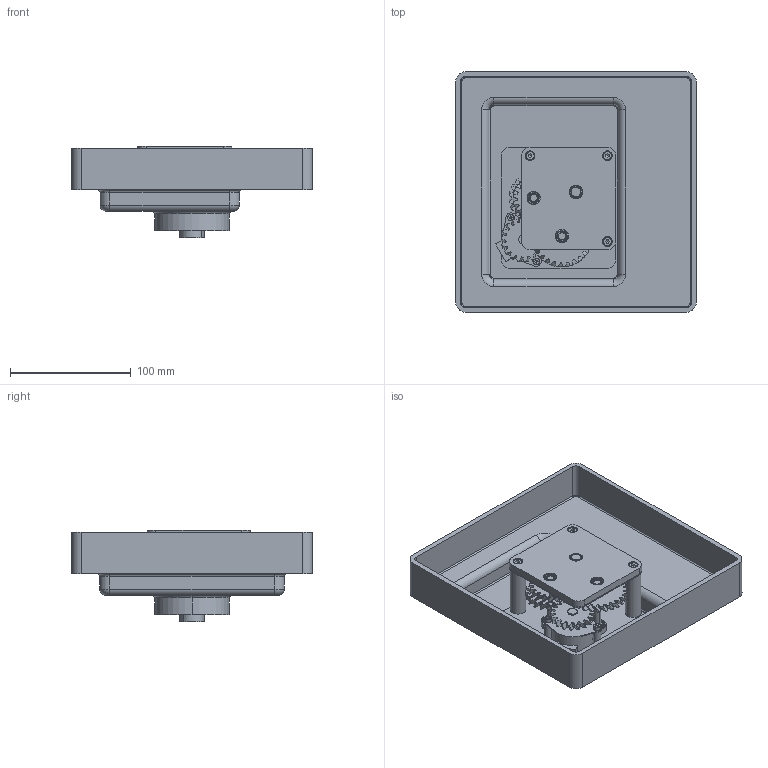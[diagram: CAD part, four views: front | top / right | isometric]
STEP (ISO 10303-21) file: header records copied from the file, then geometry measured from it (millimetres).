
FILE_DESCRIPTION (( 'STEP AP214' ), '1' );
FILE_NAME ('GearUnit.STEP', '2019-11-18T20:47:11', ( '' ), ( '' ), 'SwSTEP 2.0', 'SolidWorks 2018', '' );
FILE_SCHEMA (( 'AUTOMOTIVE_DESIGN' ));
Length unit declared in the file: millimetre
Products named in the file (50): 11Shaft; angular contact ball bearing_68_iso_ISO 15 ABB - 286 - 10,DE,NC,10_68; socket head cap screw_iso_ISO 4762 M2.5 x 6 - 6N; 6GearKey; Shaft7; radial ball bearing_68_iso_ISO 15 RBB - 286 - 10,DE,NC,10_68; 8-9Shaft; helical gear_4_iso_ISO - LH Helical gear 1M 21T 25HA 20PA 7FW ---21A75H50L10.0S1; helical gear_4_iso_ISO - RH Helical gear 1.5M 16T 35HA 20PA 5FW ---16A75H50L6.0S1; 7Shaft; ArmGears; 2GearKey; socket head cap screw_iso_ISO 4762 M2 x 3 - 3N; helical gear_4_iso_ISO - LH Helical gear 1M 21T 25HA 20PA 5FW ---21A75H50L6.0S1; Shaft11; GearUnit; 3-4Shaft; 11GearKey; Shaft11Cover; ElectricMotor; 9GearKey; BearingsBoxCover; 5Shaft; helical gear_4_iso_ISO - RH Helical gear 1M 15T 25HA 20PA 7FW ---15A75H50L6.0S1; Ring2; 2-6Shaft; ArmGears2; 4GearKey; helical gear_4_iso_ISO - LH Helical gear 1.75M 18T 20HA 20PA 5FW ---18A75H50L6.0S1; Cylinder1; EnclosureBox; helical gear_4_iso_ISO - RH Helical gear 1.75M 20T 20HA 20PA 5FW ---20A75H50L6.0S1; EnclosureBoxCover; helical gear_4_iso_ISO - RH Helical gear 1M 15T 25HA 20PA 5FW ---15A75H50L6.0S1; helical gear_4_iso_ISO - LH Helical gear 1.75M 18T 20HA 20PA 5FW ---18A75H50L11.0N; socket head cap screw_iso_ISO 4762 M4 x 25 - 25N; BearingsBox; 3GearKey; socket head cap screw_iso_ISO 4762 M3 x 12 - 12N; Shaft8-9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
Assembly tree (72 placements, depth 3):
  GearUnit
    socket head cap screw_iso_ISO 4762 M4 x 25 - 25N  x3
    socket head cap screw_iso_ISO 4762 M3 x 12 - 12N  x2
    EnclosureBox
    BearingsBoxCover
    EnclosureBoxCover
    BearingsBox
    Cylinder1  x3
    ElectricMotor
    2-6Shaft
    6GearKey
    2GearKey
    ShaftCover  x2
    helical gear_4_iso_ISO - RH Helical gear 1M 15T 25HA 20PA 5FW ---15A75H50L6.0S1
    helical gear_4_iso_ISO - RH Helical gear 1.5M 16T 35HA 20PA 5FW ---16A75H50L6.0S1
    Ring2
    radial ball bearing_68_iso_ISO 15 RBB - 286 - 10,DE,NC,10_68  x3
    5Shaft
    5GearKey
    OutputShaft
    OldhamCoupling
    Shaft5Cover
    helical gear_4_iso_ISO - LH Helical gear 1M 21T 25HA 20PA 7FW ---21A75H50L10.0S1
    Shaft3-4  x3
      3GearKey
      4GearKey
      3-4Shaft
      helical gear_4_iso_ISO - LH Helical gear 1M 21T 25HA 20PA 5FW ---21A75H50L6.0S1
      helical gear_4_iso_ISO - RH Helical gear 1M 15T 25HA 20PA 7FW ---15A75H50L6.0S1
      angular contact ball bearing_68_iso_ISO 15 ABB - 286 - 10,DE,NC,10_68
      Ring1
    ArmGears2
    ArmGears
    socket head cap screw_iso_ISO 4762 M2.5 x 6 - 6N  x3
    socket head cap screw_iso_ISO 4762 M3 x 20 - 20N  x3
    helical gear_4_iso_ISO - LH Helical gear 1.75M 18T 20HA 20PA 5FW ---18A75H50L11.0N
    Shaft8-9
      9GearKey
      8-9Shaft
      6GearKey
      helical gear_4_iso_ISO - RH Helical gear 1.5M 17T 35HA 20PA 5FW ---17A75H50L6.0S1
      helical gear_4_iso_ISO - RH Helical gear 1.75M 20T 20HA 20PA 5FW ---20A75H50L6.0S1
      Ring1
      Ring2
    angular contact ball bearing_68_iso_ISO 15 ABB - 286 - 10,DE,NC,10_68  x2
    Shaft11
      11Shaft
      helical gear_4_iso_ISO - LH Helical gear 1.75M 18T 20HA 20PA 5FW ---18A75H50L6.0S1
      Shaft11Cover
      11GearKey
      socket head cap screw_iso_ISO 4762 M2 x 3 - 3N
    Shaft7
      7Shaft
      6GearKey
      helical gear_4_iso_ISO - LH Helical gear 1.5M 26T 35HA 20PA 5FW ---26A75H50L6.0S1
      Ring2
Bounding box: 199 x 199 x 76 mm (x, y, z)
Volume: 471328.1 mm3; surface area: 288407.2 mm2
Topology: 84 solids, 84 shells, 3538 faces, 10761 edges, 7032 vertices
Faces by surface type: bspline 1295, cylinder 952, plane 574, torus 439, sphere 220, cone 58
Entity records: 391428 total; most frequent: CARTESIAN_POINT 342657, ORIENTED_EDGE 11678, DIRECTION 8526, EDGE_CURVE 5839, VERTEX_POINT 3855, AXIS2_PLACEMENT_3D 3794, CIRCLE 2538, EDGE_LOOP 2308
